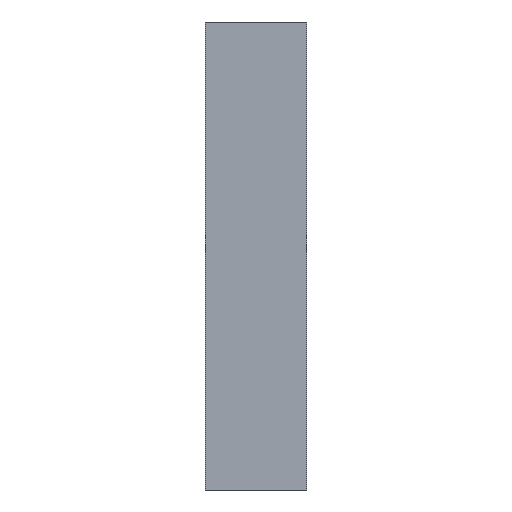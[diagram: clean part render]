
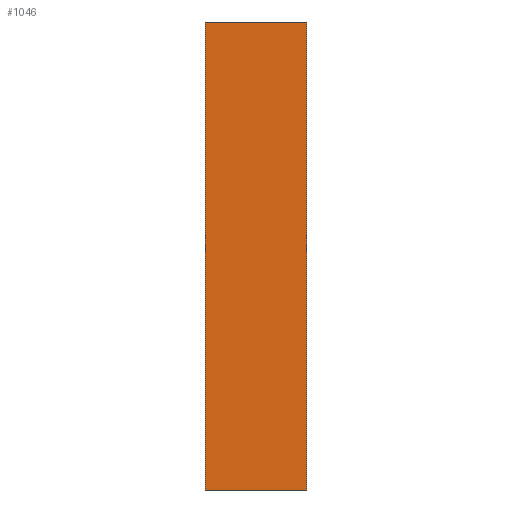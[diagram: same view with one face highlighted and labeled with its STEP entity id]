
A CAD part, left-side view. The second image highlights one B-rep face of the part: STEP entity #1046.
In plain terms, the highlighted planar face has unit normal (-1, 0, 0).
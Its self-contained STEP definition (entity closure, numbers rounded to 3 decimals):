
#127 = VECTOR ( 'NONE', #1263, 1000. ) ;
#129 = LINE ( 'NONE', #1268, #127 ) ;
#130 = LINE ( 'NONE', #1259, #131 ) ;
#131 = VECTOR ( 'NONE', #1267, 1000. ) ;
#200 = LINE ( 'NONE', #408, #203 ) ;
#202 = LINE ( 'NONE', #410, #205 ) ;
#203 = VECTOR ( 'NONE', #409, 1000. ) ;
#205 = VECTOR ( 'NONE', #412, 1000. ) ;
#259 = FACE_OUTER_BOUND ( 'NONE', #847, .T. ) ;
#359 = EDGE_CURVE ( 'NONE', #611, #607, #130, .T. ) ;
#360 = EDGE_CURVE ( 'NONE', #611, #601, #129, .T. ) ;
#408 = CARTESIAN_POINT ( 'NONE',  ( -31., -12.5, 115. ) ) ;
#409 = DIRECTION ( 'NONE',  ( 0., 0., -1. ) ) ;
#410 = CARTESIAN_POINT ( 'NONE',  ( -31., -12.5, 0. ) ) ;
#412 = DIRECTION ( 'NONE',  ( 0., -1., 0. ) ) ;
#503 = CARTESIAN_POINT ( 'NONE',  ( -31., -12.5, 115. ) ) ;
#510 = PLANE ( 'NONE',  #1099 ) ;
#512 = DIRECTION ( 'NONE',  ( 1., 0., 0. ) ) ;
#513 = DIRECTION ( 'NONE',  ( 0., 0., -1. ) ) ;
#601 = VERTEX_POINT ( 'NONE', #1306 ) ;
#607 = VERTEX_POINT ( 'NONE', #1312 ) ;
#611 = VERTEX_POINT ( 'NONE', #1316 ) ;
#612 = VERTEX_POINT ( 'NONE', #1317 ) ;
#653 = ORIENTED_EDGE ( 'NONE', *, *, #926, .T. ) ;
#830 = ORIENTED_EDGE ( 'NONE', *, *, #359, .F. ) ;
#831 = ORIENTED_EDGE ( 'NONE', *, *, #925, .F. ) ;
#839 = ORIENTED_EDGE ( 'NONE', *, *, #360, .T. ) ;
#847 = EDGE_LOOP ( 'NONE', ( #653, #831, #830, #839 ) ) ;
#925 = EDGE_CURVE ( 'NONE', #607, #612, #200, .T. ) ;
#926 = EDGE_CURVE ( 'NONE', #601, #612, #202, .T. ) ;
#1046 = ADVANCED_FACE ( 'NONE', ( #259 ), #510, .F. ) ;
#1099 = AXIS2_PLACEMENT_3D ( 'NONE', #503, #512, #513 ) ;
#1259 = CARTESIAN_POINT ( 'NONE',  ( -31., -12.5, 115. ) ) ;
#1263 = DIRECTION ( 'NONE',  ( 0., 0., -1. ) ) ;
#1267 = DIRECTION ( 'NONE',  ( 0., -1., 0. ) ) ;
#1268 = CARTESIAN_POINT ( 'NONE',  ( -31., 12.5, 115. ) ) ;
#1306 = CARTESIAN_POINT ( 'NONE',  ( -31., 12.5, 0. ) ) ;
#1312 = CARTESIAN_POINT ( 'NONE',  ( -31., -12.5, 115. ) ) ;
#1316 = CARTESIAN_POINT ( 'NONE',  ( -31., 12.5, 115. ) ) ;
#1317 = CARTESIAN_POINT ( 'NONE',  ( -31., -12.5, 0. ) ) ;
